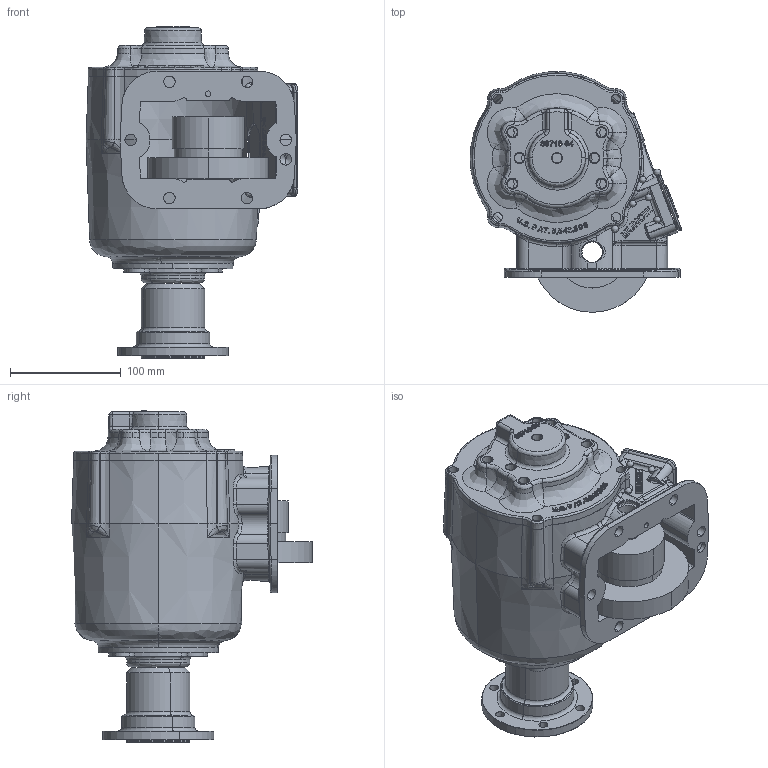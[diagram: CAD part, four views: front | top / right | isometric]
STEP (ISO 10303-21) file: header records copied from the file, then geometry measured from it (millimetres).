
FILE_DESCRIPTION (( 'STEP AP203' ), '1' );
FILE_NAME ('CS6S-XXXXX-X22X.STEP', '2011-11-01T19:58:37', ( 'User' ), ( 'Muncie Power Products, Inc.' ), 'SwSTEP 2.0', 'SolidWorks 2011', '' );
FILE_SCHEMA (( 'CONFIG_CONTROL_DESIGN' ));
Products named in the file (1): CS6S-XXXXX-X22X
Bounding box: 190.82 x 216.75 x 299.11 mm (x, y, z)
Surface area: 312990 mm2 (no closed solid volume)
Topology: 0 solids, 17 shells, 1248 faces, 4012 edges, 2635 vertices
Faces by surface type: bspline 614, cylinder 270, plane 234, cone 122, torus 8
Entity records: 102884 total; most frequent: CARTESIAN_POINT 74313, ORIENTED_EDGE 6831, EDGE_CURVE 3944, DIRECTION 3588, VERTEX_POINT 2635, B_SPLINE_CURVE_WITH_KNOTS 2038, EDGE_LOOP 1400, LINE 1294
